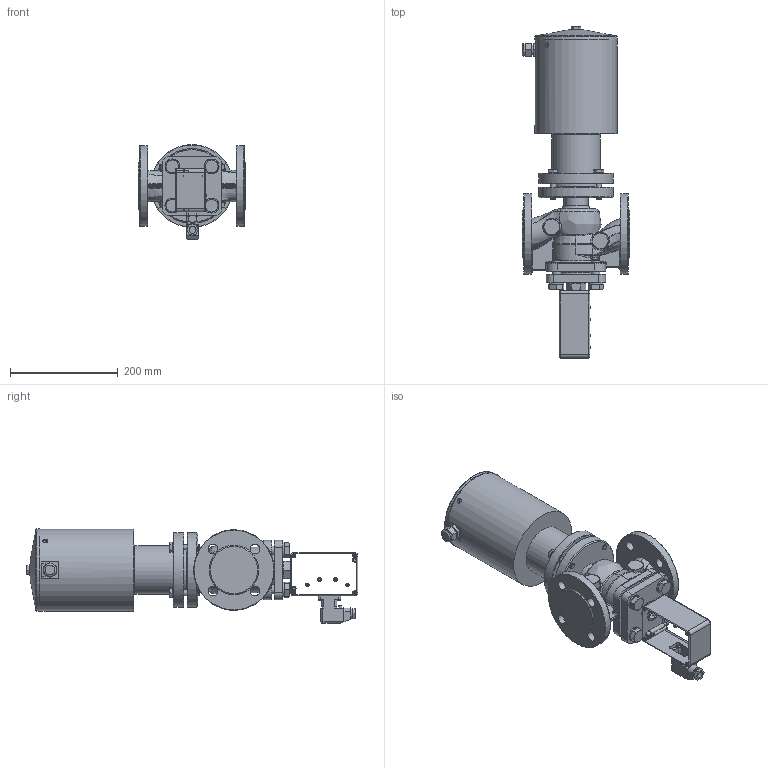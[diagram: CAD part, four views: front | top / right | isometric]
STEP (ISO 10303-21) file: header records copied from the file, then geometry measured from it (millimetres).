
FILE_DESCRIPTION((''),'2;1');
FILE_NAME('G:\CAD-Download\EVO\1-EVO\DN 40\1-EVO 15NH-4R.stp','2010-10-25T11:00:59',('da'),(''),'Autodesk Inventor 2008','Autodesk Inventor 2008','');
FILE_SCHEMA(('AUTOMOTIVE_DESIGN { 1 0 10303 214 1 1 1 1 }'));
Length unit declared in the file: millimetre
Products named in the file (1): Bauteil4
Bounding box: 200 x 616.8 x 176.18 mm (x, y, z)
Volume: 7015978.5 mm3; surface area: 482034.1 mm2
Topology: 1 solids, 1 shells, 1102 faces, 2779 edges, 1691 vertices
Faces by surface type: plane 478, bspline 194, cylinder 180, cone 157, torus 79, sphere 14
Full cylindrical faces by diameter (mm): 3.621 x4, 4 x4, 5.9 x2, 10 x8, 14.63 x1, 16 x12, 17 x1, 20 x1, 23.713 x1, 24 x1, 30 x4, 45 x1, 72 x1, 75.8 x1, 87.8 x1, 88 x2, 91 x1, 91.5 x1, 95 x1, 139 x2, 147.5 x1, 149 x1, 150 x4, 152.4 x1
Entity records: 44560 total; most frequent: CARTESIAN_POINT 19582, ORIENTED_EDGE 5012, DIRECTION 4863, EDGE_CURVE 2506, AXIS2_PLACEMENT_3D 2022, VERTEX_POINT 1611, EDGE_LOOP 1387, FACE_OUTER_BOUND 1102
